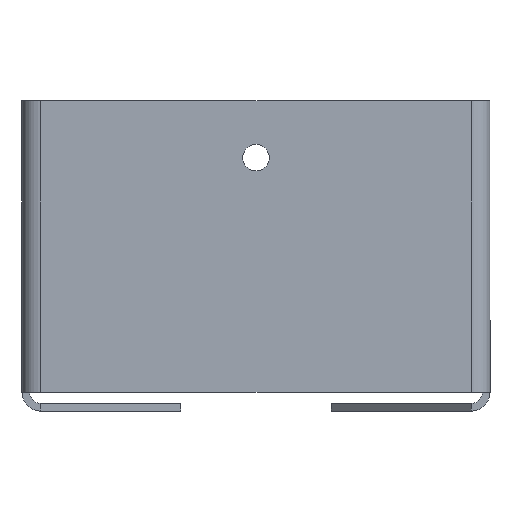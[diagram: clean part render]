
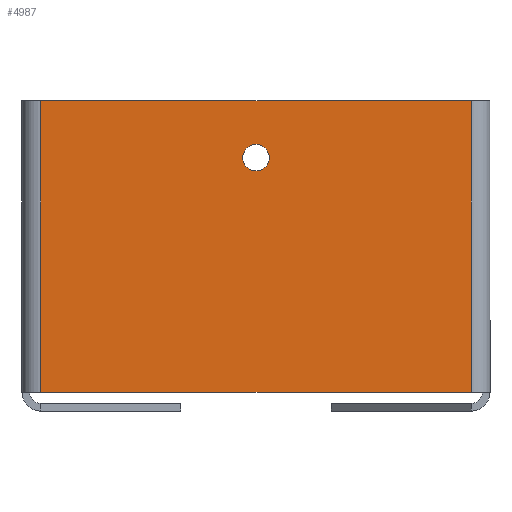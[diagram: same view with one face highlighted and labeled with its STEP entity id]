
A CAD part, front view. The second image highlights one B-rep face of the part: STEP entity #4987.
In plain terms, the highlighted planar face has unit normal (0, -1, 0).
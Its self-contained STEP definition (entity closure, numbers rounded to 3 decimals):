
#149 = CARTESIAN_POINT ( 'NONE',  ( 306.858, 0., 0. ) ) ;
#206 = LINE ( 'NONE', #3420, #461 ) ;
#242 = DIRECTION ( 'NONE',  ( 0., 1., 0. ) ) ;
#289 = AXIS2_PLACEMENT_3D ( 'NONE', #4205, #242, #1861 ) ;
#361 = AXIS2_PLACEMENT_3D ( 'NONE', #2971, #979, #4531 ) ;
#414 = CARTESIAN_POINT ( 'NONE',  ( 0., 0., 40. ) ) ;
#461 = VECTOR ( 'NONE', #1466, 1000. ) ;
#479 = EDGE_CURVE ( 'NONE', #2393, #2562, #3178, .T. ) ;
#852 = DIRECTION ( 'NONE',  ( 1., 0., 0. ) ) ;
#858 = LINE ( 'NONE', #414, #1090 ) ;
#979 = DIRECTION ( 'NONE',  ( 0., -1., 0. ) ) ;
#984 = CARTESIAN_POINT ( 'NONE',  ( 193.142, 0., 40. ) ) ;
#1090 = VECTOR ( 'NONE', #852, 1000. ) ;
#1171 = CARTESIAN_POINT ( 'NONE',  ( 193.142, 0., -37. ) ) ;
#1199 = EDGE_CURVE ( 'NONE', #2798, #2861, #4609, .T. ) ;
#1466 = DIRECTION ( 'NONE',  ( 0., 0., 1. ) ) ;
#1535 = LINE ( 'NONE', #149, #4717 ) ;
#1767 = PLANE ( 'NONE',  #361 ) ;
#1800 = DIRECTION ( 'NONE',  ( 0., 0., 1. ) ) ;
#1861 = DIRECTION ( 'NONE',  ( 0., 0., 1. ) ) ;
#1887 = CARTESIAN_POINT ( 'NONE',  ( 250., 0., 21.5 ) ) ;
#2078 = AXIS2_PLACEMENT_3D ( 'NONE', #4578, #4186, #1800 ) ;
#2123 = CARTESIAN_POINT ( 'NONE',  ( 306.858, 0., 40. ) ) ;
#2181 = VECTOR ( 'NONE', #5075, 1000. ) ;
#2393 = VERTEX_POINT ( 'NONE', #3372 ) ;
#2483 = EDGE_LOOP ( 'NONE', ( #3337, #4156, #4439, #4373 ) ) ;
#2562 = VERTEX_POINT ( 'NONE', #1887 ) ;
#2710 = FACE_BOUND ( 'NONE', #2928, .T. ) ;
#2798 = VERTEX_POINT ( 'NONE', #1171 ) ;
#2861 = VERTEX_POINT ( 'NONE', #4360 ) ;
#2910 = EDGE_CURVE ( 'NONE', #2861, #4319, #1535, .T. ) ;
#2928 = EDGE_LOOP ( 'NONE', ( #4604, #4453 ) ) ;
#2971 = CARTESIAN_POINT ( 'NONE',  ( 0., 0., 0. ) ) ;
#3178 = CIRCLE ( 'NONE', #2078, 3.5 ) ;
#3337 = ORIENTED_EDGE ( 'NONE', *, *, #1199, .T. ) ;
#3372 = CARTESIAN_POINT ( 'NONE',  ( 250., 0., 28.5 ) ) ;
#3420 = CARTESIAN_POINT ( 'NONE',  ( 193.142, 0., 0. ) ) ;
#3507 = FACE_OUTER_BOUND ( 'NONE', #2483, .T. ) ;
#3607 = DIRECTION ( 'NONE',  ( 0., 0., 1. ) ) ;
#3757 = EDGE_CURVE ( 'NONE', #4471, #4319, #858, .T. ) ;
#3880 = CARTESIAN_POINT ( 'NONE',  ( 0., 0., -37. ) ) ;
#4156 = ORIENTED_EDGE ( 'NONE', *, *, #2910, .T. ) ;
#4186 = DIRECTION ( 'NONE',  ( 0., 1., 0. ) ) ;
#4205 = CARTESIAN_POINT ( 'NONE',  ( 250., 0., 25. ) ) ;
#4257 = CIRCLE ( 'NONE', #289, 3.5 ) ;
#4319 = VERTEX_POINT ( 'NONE', #2123 ) ;
#4360 = CARTESIAN_POINT ( 'NONE',  ( 306.858, 0., -37. ) ) ;
#4373 = ORIENTED_EDGE ( 'NONE', *, *, #5058, .F. ) ;
#4439 = ORIENTED_EDGE ( 'NONE', *, *, #3757, .F. ) ;
#4453 = ORIENTED_EDGE ( 'NONE', *, *, #4542, .T. ) ;
#4471 = VERTEX_POINT ( 'NONE', #984 ) ;
#4531 = DIRECTION ( 'NONE',  ( 0., 0., -1. ) ) ;
#4542 = EDGE_CURVE ( 'NONE', #2562, #2393, #4257, .T. ) ;
#4578 = CARTESIAN_POINT ( 'NONE',  ( 250., 0., 25. ) ) ;
#4604 = ORIENTED_EDGE ( 'NONE', *, *, #479, .T. ) ;
#4609 = LINE ( 'NONE', #3880, #2181 ) ;
#4717 = VECTOR ( 'NONE', #3607, 1000. ) ;
#4987 = ADVANCED_FACE ( 'NONE', ( #2710, #3507 ), #1767, .T. ) ;
#5058 = EDGE_CURVE ( 'NONE', #2798, #4471, #206, .T. ) ;
#5075 = DIRECTION ( 'NONE',  ( 1., 0., 0. ) ) ;
